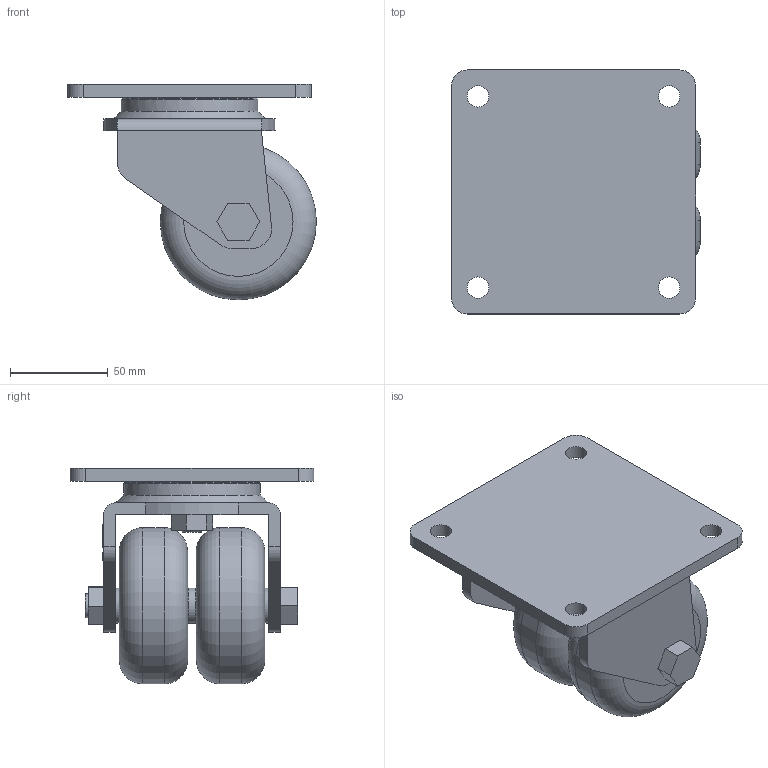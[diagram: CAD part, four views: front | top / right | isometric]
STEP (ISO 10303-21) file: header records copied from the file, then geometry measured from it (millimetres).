
FILE_DESCRIPTION(/* description */ (''),/* implementation_level */ '2;1');
FILE_NAME(/* name */ '90A02_2,5_R.stp',/* time_stamp */ '2022-10-07T12:08:29+08:00',/* author */ (''),/* organization */ (''),/* preprocessor_version */ 'ST-DEVELOPER v14',/* originating_system */ 'SIEMENS PLM Software NX 8.0',/* authorisation */ '');
FILE_SCHEMA (('AUTOMOTIVE_DESIGN { 1 0 10303 214 3 1 1 1 }'));
Length unit declared in the file: millimetre
Products named in the file (1): 90A02_2,5_R
Bounding box: 127.5 x 125 x 110.5 mm (x, y, z)
Volume: 553502.2 mm3; surface area: 106891.4 mm2
Topology: 1 solids, 5 shells, 314 faces, 802 edges, 535 vertices
Faces by surface type: plane 229, cylinder 65, torus 7, cone 6, revolution 5, bspline 2
Full cylindrical faces by diameter (mm): 11 x4, 12 x1, 12.2 x1, 12.5 x1, 15 x2, 17.142 x1, 18 x3, 20 x1, 22 x1, 24.608 x1, 28 x1, 40 x1, 60 x2, 62.5 x1, 70 x1, 80 x2
Entity records: 9957 total; most frequent: CARTESIAN_POINT 2890, ORIENTED_EDGE 1486, DIRECTION 1272, EDGE_CURVE 743, VERTEX_POINT 520, AXIS2_PLACEMENT_3D 459, EDGE_LOOP 413, LINE 349
